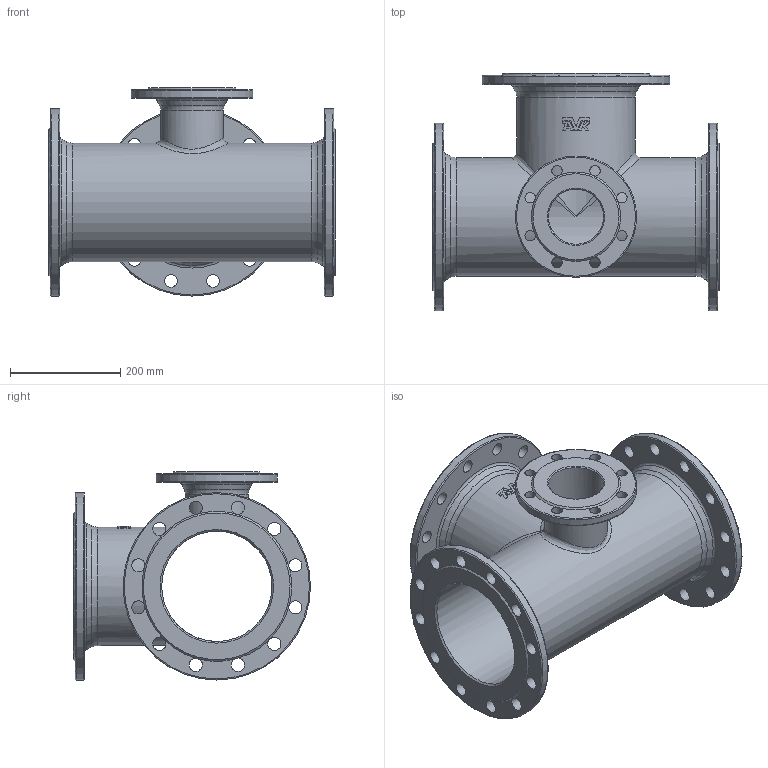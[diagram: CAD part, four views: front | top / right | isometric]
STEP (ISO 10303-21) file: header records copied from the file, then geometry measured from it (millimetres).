
FILE_DESCRIPTION (( 'STEP AP203' ), '1' );
FILE_NAME ('O_712_1110_DN200_1_AA0.step', '2017-10-13T07:27:19', ( 'Windows User' ), ( 'AVK' ), 'SwSTEP 2.0', 'SolidWorks 2012', '' );
FILE_SCHEMA (( 'CONFIG_CONTROL_DESIGN' ));
Length unit declared in the file: millimetre
Products named in the file (1): O_712_1110_DN200_1_AA0
Bounding box: 520 x 430 x 377.5 mm (x, y, z)
Volume: 6648964.1 mm3; surface area: 1306080.9 mm2
Topology: 1 solids, 1 shells, 149 faces, 507 edges, 320 vertices
Faces by surface type: cylinder 60, plane 47, torus 16, cone 12, bspline 12, sphere 2
Full cylindrical faces by diameter (mm): 19 x8, 23 x12, 24 x24, 100 x1, 114 x1, 200 x2, 215 x2, 220 x1, 340 x3
Entity records: 7312 total; most frequent: CARTESIAN_POINT 3571, DIRECTION 757, ORIENTED_EDGE 706, AXIS2_PLACEMENT_3D 356, EDGE_CURVE 353, EDGE_LOOP 293, VERTEX_POINT 256, FACE_OUTER_BOUND 219
